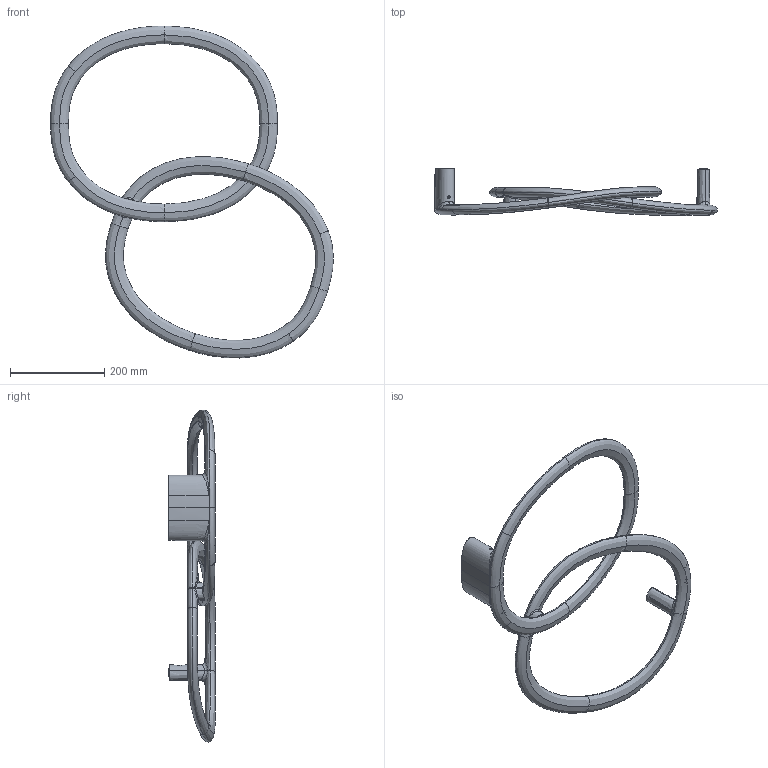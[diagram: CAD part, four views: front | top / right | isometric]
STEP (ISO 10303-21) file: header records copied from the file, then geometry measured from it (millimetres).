
FILE_DESCRIPTION(/* description */ ('RING P/PL 2 CE'),/* implementation_level */ '2;1');
FILE_NAME(/* name */ '502AZ1LD0CEDP.stp',/* time_stamp */ '2025-01-21T10:18:09+01:00',/* author */ ('davide.turci'),/* organization */ (''),/* preprocessor_version */ 'ST-DEVELOPER v20',/* originating_system */ 'Autodesk Inventor 2025',/* authorisation */ '');
FILE_SCHEMA (('AUTOMOTIVE_DESIGN { 1 0 10303 214 3 1 1 }'));
Products named in the file (24): 502AZ1LD0CEDP; 502C002; 502C001-C; 502C001-C_1; X0100; 502C004; 502C014; 502C003; 502C003-1; X0050-008; GRANO M4X12 ZINC.ES.INC.PUNTA CONICA UNI5927; 502C008-B; 502C007-B; 502C013-A; 502C013-D; K026; 502C008-A; 502C007-A; 502C013-B; K025; W034; W032; W037; VITE AUTOFIL. Ø2.2X5 TCC WN 1412
Assembly tree (36 placements, depth 4):
  502AZ1LD0CEDP
    502C002
    502C001-C
      502C001-C_1
      X0100  x2
    502C004
    502C014
    502C003
      502C003-1
      X0050-008
    GRANO M4X12 ZINC.ES.INC.PUNTA CONICA UNI5927  x3
    502C008-B
      502C007-B
      502C013-A
        K025
        W034  x2
        W032
      502C013-D
        K026
        W034  x2
        W032
      W037
    502C008-A
      502C007-A
      502C013-B
        K025
        W034  x2
        W032
      W037
    VITE AUTOFIL. Ø2.2X5 TCC WN 1412  x2
Bounding box: 600.36 x 99 x 704.73 mm (x, y, z)
Volume: 1715231.8 mm3; surface area: 506248.8 mm2
Topology: 29 solids, 29 shells, 2267 faces, 5767 edges, 3581 vertices
Faces by surface type: bspline 1454, plane 588, cone 113, cylinder 98, torus 8, sphere 6
Full cylindrical faces by diameter (mm): 1.7 x6, 2.2 x2, 2.5 x2, 3 x2, 3.2 x5, 3.242 x1, 3.3 x2, 4 x4, 4.22 x3, 4.5 x1, 4.6 x1, 5 x1, 5.075 x4, 5.1 x2, 5.3 x2, 5.4 x2, 5.5 x1, 6 x1, 10 x2, 12.7 x2, 13.5 x1, 13.98 x2, 17 x1
Entity records: 375364 total; most frequent: CARTESIAN_POINT 341294, ORIENTED_EDGE 9022, EDGE_CURVE 4511, DIRECTION 3089, B_SPLINE_CURVE_WITH_KNOTS 2994, VERTEX_POINT 2837, EDGE_LOOP 1794, FACE_OUTER_BOUND 1724
